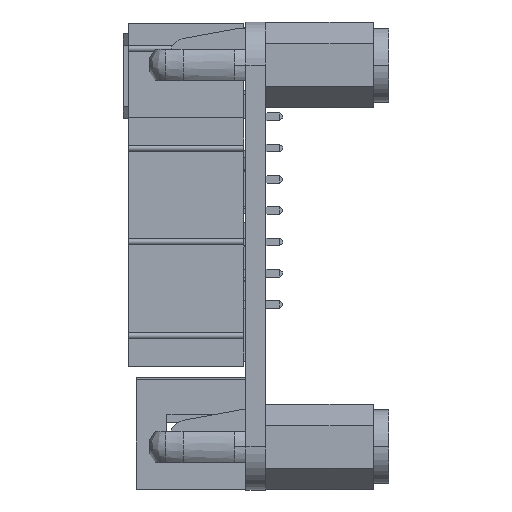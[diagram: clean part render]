
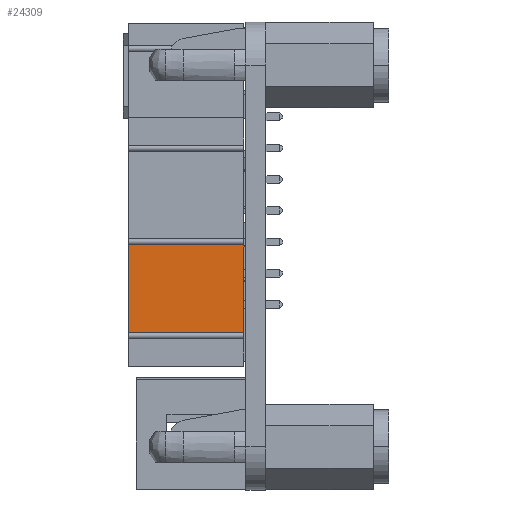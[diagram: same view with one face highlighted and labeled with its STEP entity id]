
A CAD part, left-side view. The second image highlights one B-rep face of the part: STEP entity #24309.
In plain terms, the highlighted planar face has unit normal (-1, 0, 0).
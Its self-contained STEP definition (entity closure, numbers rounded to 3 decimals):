
#1647 = VERTEX_POINT ( 'NONE', #89032 ) ;
#5460 = CARTESIAN_POINT ( 'NONE',  ( 1.042, 25.211, 9.5 ) ) ;
#7144 = DIRECTION ( 'NONE',  ( 0., 1., 0. ) ) ;
#8546 = ORIENTED_EDGE ( 'NONE', *, *, #72221, .F. ) ;
#9655 = LINE ( 'NONE', #66128, #53706 ) ;
#13201 = CARTESIAN_POINT ( 'NONE',  ( 1.042, 17.856, 0.15 ) ) ;
#13247 = EDGE_CURVE ( 'NONE', #60294, #39992, #75690, .T. ) ;
#14527 = ORIENTED_EDGE ( 'NONE', *, *, #13247, .F. ) ;
#16400 = ORIENTED_EDGE ( 'NONE', *, *, #43602, .F. ) ;
#23208 = LINE ( 'NONE', #5460, #32814 ) ;
#24309 = ADVANCED_FACE ( 'NONE', ( #68883 ), #33842, .F. ) ;
#24411 = DIRECTION ( 'NONE',  ( 0., -1., 0. ) ) ;
#28853 = ORIENTED_EDGE ( 'NONE', *, *, #57444, .F. ) ;
#32814 = VECTOR ( 'NONE', #32840, 1000. ) ;
#32840 = DIRECTION ( 'NONE',  ( 0., 0., 1. ) ) ;
#33806 = DIRECTION ( 'NONE',  ( 0., 0., -1. ) ) ;
#33842 = PLANE ( 'NONE',  #75496 ) ;
#34549 = EDGE_LOOP ( 'NONE', ( #28853, #16400, #8546, #14527 ) ) ;
#37790 = CARTESIAN_POINT ( 'NONE',  ( 1.042, 25.211, 0.15 ) ) ;
#39992 = VERTEX_POINT ( 'NONE', #37790 ) ;
#41104 = VECTOR ( 'NONE', #33806, 1000. ) ;
#41644 = CARTESIAN_POINT ( 'NONE',  ( 1.042, 18.106, 9.5 ) ) ;
#43602 = EDGE_CURVE ( 'NONE', #45498, #1647, #9655, .T. ) ;
#45498 = VERTEX_POINT ( 'NONE', #69895 ) ;
#48244 = DIRECTION ( 'NONE',  ( 0., 0., -1. ) ) ;
#53706 = VECTOR ( 'NONE', #24411, 1000. ) ;
#55037 = LINE ( 'NONE', #74056, #41104 ) ;
#57444 = EDGE_CURVE ( 'NONE', #1647, #60294, #55037, .T. ) ;
#60294 = VERTEX_POINT ( 'NONE', #80137 ) ;
#61762 = VECTOR ( 'NONE', #7144, 1000. ) ;
#62657 = DIRECTION ( 'NONE',  ( 1., 0., 0. ) ) ;
#66128 = CARTESIAN_POINT ( 'NONE',  ( 1.042, 18.106, 9.5 ) ) ;
#68883 = FACE_OUTER_BOUND ( 'NONE', #34549, .T. ) ;
#69895 = CARTESIAN_POINT ( 'NONE',  ( 1.042, 25.211, 9.5 ) ) ;
#72221 = EDGE_CURVE ( 'NONE', #39992, #45498, #23208, .T. ) ;
#74056 = CARTESIAN_POINT ( 'NONE',  ( 1.042, 18.106, 9.5 ) ) ;
#75496 = AXIS2_PLACEMENT_3D ( 'NONE', #41644, #62657, #48244 ) ;
#75690 = LINE ( 'NONE', #13201, #61762 ) ;
#80137 = CARTESIAN_POINT ( 'NONE',  ( 1.042, 18.106, 0.15 ) ) ;
#89032 = CARTESIAN_POINT ( 'NONE',  ( 1.042, 18.106, 9.5 ) ) ;
